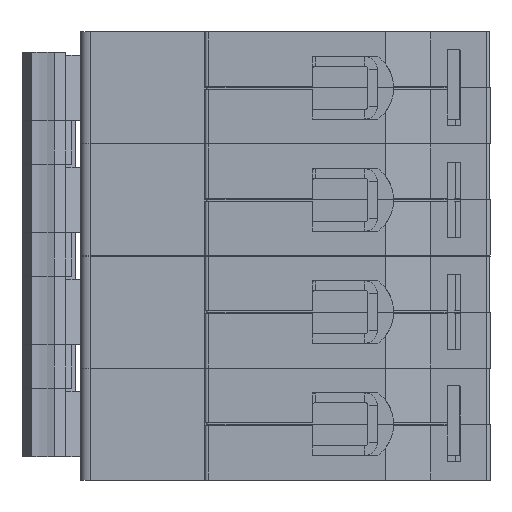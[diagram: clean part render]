
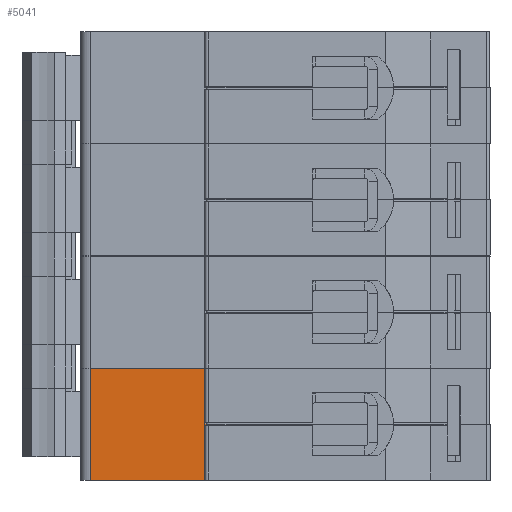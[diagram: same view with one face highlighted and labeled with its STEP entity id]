
A CAD part, left-side view. The second image highlights one B-rep face of the part: STEP entity #5041.
In plain terms, the highlighted planar face has unit normal (-1, 0, 0).
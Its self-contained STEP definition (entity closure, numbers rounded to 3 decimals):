
#335 = DIRECTION ( 'NONE',  ( -1., 0., 0. ) ) ;
#535 = ORIENTED_EDGE ( 'NONE', *, *, #11921, .T. ) ;
#712 = VERTEX_POINT ( 'NONE', #19287 ) ;
#936 = CARTESIAN_POINT ( 'NONE',  ( -14., -12., -0.2 ) ) ;
#1170 = CARTESIAN_POINT ( 'NONE',  ( -14., -12.2, -0.2 ) ) ;
#1699 = CARTESIAN_POINT ( 'NONE',  ( -14., -12., -9. ) ) ;
#2299 = CARTESIAN_POINT ( 'NONE',  ( -14., -12., -1. ) ) ;
#2340 = DIRECTION ( 'NONE',  ( 0., -1., 0. ) ) ;
#2481 = VECTOR ( 'NONE', #12296, 1000. ) ;
#3080 = ORIENTED_EDGE ( 'NONE', *, *, #19174, .T. ) ;
#3138 = CARTESIAN_POINT ( 'NONE',  ( -14., -12., -9. ) ) ;
#3190 = FACE_OUTER_BOUND ( 'NONE', #3624, .T. ) ;
#3537 = DIRECTION ( 'NONE',  ( 0., 1., 0. ) ) ;
#3624 = EDGE_LOOP ( 'NONE', ( #16102, #15256, #3080, #12451, #10063, #16126, #20603, #535 ) ) ;
#3690 = DIRECTION ( 'NONE',  ( 0., 1., 0. ) ) ;
#3848 = PLANE ( 'NONE',  #9689 ) ;
#3926 = CARTESIAN_POINT ( 'NONE',  ( -14., -12., -9. ) ) ;
#3987 = DIRECTION ( 'NONE',  ( 0., -1., 0. ) ) ;
#4156 = CARTESIAN_POINT ( 'NONE',  ( -14., -12., 0. ) ) ;
#4466 = LINE ( 'NONE', #3138, #14453 ) ;
#4924 = CARTESIAN_POINT ( 'NONE',  ( -14., -12., 0. ) ) ;
#4931 = VERTEX_POINT ( 'NONE', #8418 ) ;
#4932 = LINE ( 'NONE', #1170, #21504 ) ;
#5041 = ADVANCED_FACE ( 'NONE', ( #3190 ), #3848, .T. ) ;
#6017 = CARTESIAN_POINT ( 'NONE',  ( -14., -12., -9. ) ) ;
#6063 = LINE ( 'NONE', #8926, #7855 ) ;
#7408 = VECTOR ( 'NONE', #8362, 1000. ) ;
#7743 = VECTOR ( 'NONE', #3537, 1000. ) ;
#7855 = VECTOR ( 'NONE', #3987, 1000. ) ;
#7967 = DIRECTION ( 'NONE',  ( 0., -1., 0. ) ) ;
#7996 = EDGE_CURVE ( 'NONE', #4931, #712, #4932, .T. ) ;
#8279 = VERTEX_POINT ( 'NONE', #20859 ) ;
#8362 = DIRECTION ( 'NONE',  ( 0., 0., 1. ) ) ;
#8418 = CARTESIAN_POINT ( 'NONE',  ( -14., -12.2, -0.2 ) ) ;
#8708 = VERTEX_POINT ( 'NONE', #4156 ) ;
#8926 = CARTESIAN_POINT ( 'NONE',  ( -14., -12., 9. ) ) ;
#9689 = AXIS2_PLACEMENT_3D ( 'NONE', #3926, #335, #2340 ) ;
#9724 = VERTEX_POINT ( 'NONE', #936 ) ;
#10063 = ORIENTED_EDGE ( 'NONE', *, *, #18766, .F. ) ;
#10777 = LINE ( 'NONE', #20517, #20796 ) ;
#11770 = EDGE_CURVE ( 'NONE', #712, #8708, #14884, .T. ) ;
#11921 = EDGE_CURVE ( 'NONE', #8708, #14683, #15915, .T. ) ;
#12296 = DIRECTION ( 'NONE',  ( 0., 0., 1. ) ) ;
#12451 = ORIENTED_EDGE ( 'NONE', *, *, #16349, .T. ) ;
#13191 = EDGE_CURVE ( 'NONE', #8279, #20025, #20854, .T. ) ;
#14453 = VECTOR ( 'NONE', #7967, 1000. ) ;
#14683 = VERTEX_POINT ( 'NONE', #21375 ) ;
#14884 = LINE ( 'NONE', #4924, #7743 ) ;
#15200 = VECTOR ( 'NONE', #19485, 1000. ) ;
#15256 = ORIENTED_EDGE ( 'NONE', *, *, #13191, .F. ) ;
#15915 = LINE ( 'NONE', #2299, #2481 ) ;
#16102 = ORIENTED_EDGE ( 'NONE', *, *, #18979, .F. ) ;
#16126 = ORIENTED_EDGE ( 'NONE', *, *, #7996, .T. ) ;
#16349 = EDGE_CURVE ( 'NONE', #18441, #9724, #19949, .T. ) ;
#17030 = CARTESIAN_POINT ( 'NONE',  ( -14., 6.4, -9. ) ) ;
#17095 = CARTESIAN_POINT ( 'NONE',  ( -14., 6.4, 9. ) ) ;
#18441 = VERTEX_POINT ( 'NONE', #1699 ) ;
#18613 = DIRECTION ( 'NONE',  ( 0., 0., 1. ) ) ;
#18766 = EDGE_CURVE ( 'NONE', #4931, #9724, #10777, .T. ) ;
#18979 = EDGE_CURVE ( 'NONE', #20025, #14683, #6063, .T. ) ;
#19174 = EDGE_CURVE ( 'NONE', #8279, #18441, #4466, .T. ) ;
#19287 = CARTESIAN_POINT ( 'NONE',  ( -14., -12.2, 0. ) ) ;
#19485 = DIRECTION ( 'NONE',  ( 0., 0., 1. ) ) ;
#19949 = LINE ( 'NONE', #6017, #15200 ) ;
#20025 = VERTEX_POINT ( 'NONE', #17095 ) ;
#20517 = CARTESIAN_POINT ( 'NONE',  ( -14., -12., -0.2 ) ) ;
#20603 = ORIENTED_EDGE ( 'NONE', *, *, #11770, .T. ) ;
#20796 = VECTOR ( 'NONE', #3690, 1000. ) ;
#20854 = LINE ( 'NONE', #17030, #7408 ) ;
#20859 = CARTESIAN_POINT ( 'NONE',  ( -14., 6.4, -9. ) ) ;
#21375 = CARTESIAN_POINT ( 'NONE',  ( -14., -12., 9. ) ) ;
#21504 = VECTOR ( 'NONE', #18613, 1000. ) ;
